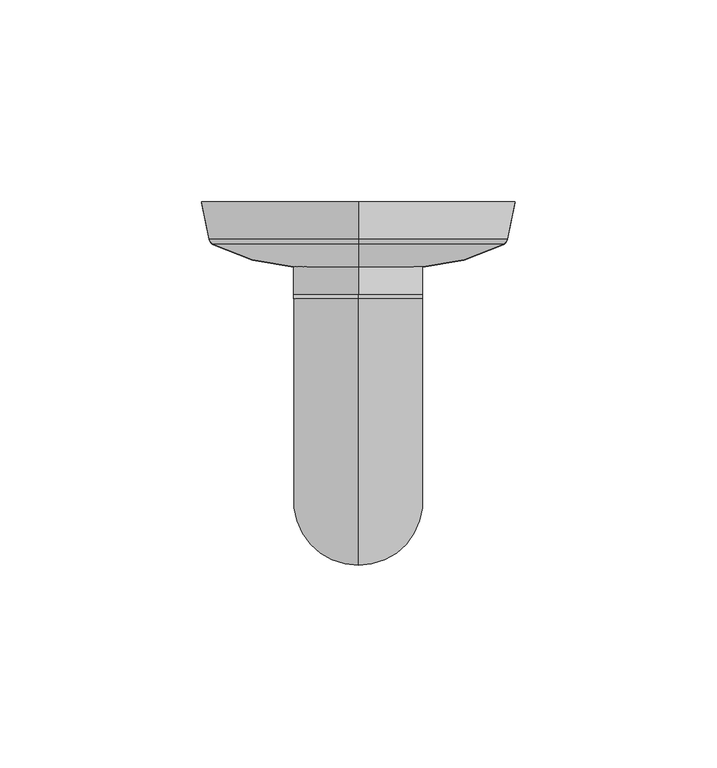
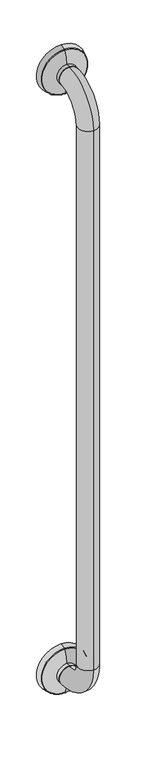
"""IFC4 building model written with IfcOpenShell, lengths in millimetres: proxy geometry, Grab Rail_Metlam_Straight_Vertical : 1032long x 90d x 32w (ML334_1SS)."""

from ifc_helpers import new_model, si_unit, point, frame, origin, place, context, project, spatial, polyline, circle_curve, ellipse_curve, trimmed, source, transform, mapped, element, save
from ifc_brep_helpers import plane_surface, cylinder_surface, revolved_surface, advanced_brep


def specialty_equipment_685f5880(model_context):
    return source(origin(), model_context, "Body", "AdvancedBrep", [
        advanced_brep(
        [(0.0, -90.0, 834.0), (0.0, -24.0, 768.0), (0.0, -24.0, 800.0), (0.0, -58.0, 834.0), (0.0, -58.0, 1734.0), (0.0, -90.0, 1734.0), (0.0, -24.0, 1768.0), (0.0, -24.0, 1800.0), (0.0, -23.0, 768.0), (0.0, -23.0, 800.0), (0.0, -23.0, 1768.0), (0.0, -23.0, 1800.0), (0.0, 0.0, 1784.0), (0.0, 0.0, 1745.0), (0.0, 0.0, 1823.0), (0.0, -9.0646354, 1746.8129271), (0.0, -9.0646354, 1821.1870729), (0.0, -10.4521085, 1820.1384075), (0.0, -10.4521085, 1747.8615925), (0.0, -16.0065539, 1768.0), (0.0, -16.0065539, 1800.0), (0.0, -9.0646354, 746.8129271), (0.0, -9.0646354, 821.1870729), (0.0, 0.0, 823.0), (0.0, 0.0, 745.0), (0.0, -16.0065539, 768.0), (0.0, -16.0065539, 800.0), (0.0, -10.4521085, 820.1384075), (0.0, -10.4521085, 747.8615925), (0.0, 0.0, 784.0)],
        [
            (0, 1, circle_curve(frame((0.0, -24.0, 834.0), z_axis=(1.0, 0.0, 0.0), x_axis=(0.0, 0.0, -1.0)), 66.0)),
            (1, 2, circle_curve(frame((0.0, -24.0, 784.0), z_axis=(0.0, -1.0, 0.0), x_axis=(0.0, 0.0, -1.0)), 16.0)),
            (2, 3, circle_curve(frame((0.0, -24.0, 834.0), z_axis=(-1.0, 0.0, 0.0), x_axis=(0.0, 0.0, -1.0)), 34.0)),
            (3, 0, circle_curve(frame((0.0, -74.0, 834.0), z_axis=(0.0, 0.0, -1.0), x_axis=(0.0, -1.0, 0.0)), 16.0)),
            (0, 3, circle_curve(frame((0.0, -74.0, 834.0), z_axis=(0.0, 0.0, -1.0), x_axis=(0.0, -1.0, 0.0)), 16.0)),
            (2, 1, circle_curve(frame((0.0, -24.0, 784.0), z_axis=(0.0, -1.0, 0.0), x_axis=(0.0, 0.0, -1.0)), 16.0)),
            (3, 4),
            (4, 5, circle_curve(frame((0.0, -74.0, 1734.0), z_axis=(0.0, 0.0, -1.0), x_axis=(0.0, -1.0, 0.0)), 16.0)),
            (5, 0),
            (5, 4, circle_curve(frame((0.0, -74.0, 1734.0), z_axis=(0.0, 0.0, -1.0), x_axis=(0.0, -1.0, 0.0)), 16.0)),
            (4, 6, circle_curve(frame((0.0, -24.0, 1734.0), z_axis=(-1.0, 0.0, 0.0), x_axis=(0.0, -1.0, 0.0)), 34.0)),
            (6, 7, circle_curve(frame((0.0, -24.0, 1784.0), z_axis=(0.0, -1.0, 0.0), x_axis=(0.0, 0.0, 1.0)), 16.0)),
            (7, 5, circle_curve(frame((0.0, -24.0, 1734.0), z_axis=(1.0, 0.0, 0.0), x_axis=(0.0, -1.0, 0.0)), 66.0)),
            (7, 6, circle_curve(frame((0.0, -24.0, 1784.0), z_axis=(0.0, -1.0, 0.0), x_axis=(0.0, 0.0, 1.0)), 16.0)),
            (1, 8),
            (8, 9, circle_curve(frame((0.0, -23.0, 784.0), z_axis=(0.0, -1.0, 0.0), x_axis=(0.0, 0.0, -1.0)), 16.0)),
            (9, 2),
            (9, 8, circle_curve(frame((0.0, -23.0, 784.0), z_axis=(0.0, -1.0, 0.0), x_axis=(0.0, 0.0, -1.0)), 16.0)),
            (6, 10),
            (10, 11, circle_curve(frame((0.0, -23.0, 1784.0), z_axis=(0.0, -1.0, 0.0), x_axis=(0.0, 0.0, 1.0)), 16.0)),
            (11, 7),
            (11, 10, circle_curve(frame((0.0, -23.0, 1784.0), z_axis=(0.0, -1.0, 0.0), x_axis=(0.0, 0.0, 1.0)), 16.0)),
            (12, 13),
            (13, 14, circle_curve(frame((0.0, 0.0, 1784.0), z_axis=(0.0, 1.0, 0.0), x_axis=(0.0, 0.0, -1.0)), 39.0)),
            (14, 12),
            (14, 13, circle_curve(frame((0.0, 0.0, 1784.0), z_axis=(0.0, 1.0, 0.0), x_axis=(0.0, 0.0, -1.0)), 39.0)),
            (13, 15),
            (15, 16, circle_curve(frame((0.0, -9.0646354, 1784.0), z_axis=(0.0, 1.0, 0.0), x_axis=(0.0, 0.0, -1.0)), 37.1870729)),
            (16, 14),
            (16, 15, circle_curve(frame((0.0, -9.0646354, 1784.0), z_axis=(0.0, 1.0, 0.0), x_axis=(0.0, 0.0, -1.0)), 37.1870729)),
            (17, 18, circle_curve(frame((0.0, -10.4521085, 1784.0), z_axis=(0.0, -1.0, 0.0), x_axis=(0.0, 0.0, -1.0)), 36.1384075)),
            (18, 19, circle_curve(frame((0.0, 35.2834961, 1771.3112908), z_axis=(-1.0, 0.0, 0.0), x_axis=(0.0, 1.0, 0.0)), 51.3968275)),
            (19, 20, circle_curve(frame((0.0, -16.0065539, 1784.0), z_axis=(0.0, 1.0, 0.0), x_axis=(0.0, 0.0, -1.0)), 16.0)),
            (20, 17, circle_curve(frame((0.0, 35.2834961, 1796.6887092), z_axis=(-1.0, 0.0, 0.0), x_axis=(0.0, 1.0, 0.0)), 51.3968275)),
            (18, 17, circle_curve(frame((0.0, -10.4521085, 1784.0), z_axis=(0.0, -1.0, 0.0), x_axis=(0.0, 0.0, -1.0)), 36.1384075)),
            (20, 19, circle_curve(frame((0.0, -16.0065539, 1784.0), z_axis=(0.0, 1.0, 0.0), x_axis=(0.0, 0.0, -1.0)), 16.0)),
            (19, 10),
            (11, 20),
            (15, 18, circle_curve(frame((0.0, -8.6724031, 1748.7740884), z_axis=(-1.0, 0.0, 0.0), x_axis=(0.0, 1.0, 0.0)), 2.0)),
            (17, 16, circle_curve(frame((0.0, -8.6724031, 1819.2259116), z_axis=(-1.0, 0.0, 0.0), x_axis=(0.0, 1.0, 0.0)), 2.0)),
            (21, 22, circle_curve(frame((0.0, -9.0646354, 784.0), z_axis=(0.0, 1.0, 0.0), x_axis=(0.0, 0.0, 1.0)), 37.1870729)),
            (22, 23),
            (23, 24, circle_curve(frame((0.0, 0.0, 784.0), z_axis=(0.0, -1.0, 0.0), x_axis=(0.0, 0.0, 1.0)), 39.0)),
            (24, 21),
            (22, 21, circle_curve(frame((0.0, -9.0646354, 784.0), z_axis=(0.0, 1.0, 0.0), x_axis=(0.0, 0.0, 1.0)), 37.1870729)),
            (24, 23, circle_curve(frame((0.0, 0.0, 784.0), z_axis=(0.0, -1.0, 0.0), x_axis=(0.0, 0.0, 1.0)), 39.0)),
            (25, 26, circle_curve(frame((0.0, -16.0065539, 784.0), z_axis=(0.0, 1.0, 0.0), x_axis=(0.0, 0.0, 1.0)), 16.0)),
            (26, 27, circle_curve(frame((0.0, 35.2834961, 796.6887092), z_axis=(-1.0, 0.0, 0.0), x_axis=(0.0, 1.0, 0.0)), 51.3968275)),
            (27, 28, circle_curve(frame((0.0, -10.4521085, 784.0), z_axis=(0.0, -1.0, 0.0), x_axis=(0.0, 0.0, 1.0)), 36.1384075)),
            (28, 25, circle_curve(frame((0.0, 35.2834961, 771.3112908), z_axis=(-1.0, 0.0, 0.0), x_axis=(0.0, 1.0, 0.0)), 51.3968275)),
            (26, 25, circle_curve(frame((0.0, -16.0065539, 784.0), z_axis=(0.0, 1.0, 0.0), x_axis=(0.0, 0.0, 1.0)), 16.0)),
            (28, 27, circle_curve(frame((0.0, -10.4521085, 784.0), z_axis=(0.0, -1.0, 0.0), x_axis=(0.0, 0.0, 1.0)), 36.1384075)),
            (25, 8),
            (9, 26),
            (23, 29),
            (29, 24),
            (21, 28, circle_curve(frame((0.0, -8.6724031, 748.7740884), z_axis=(-1.0, 0.0, 0.0), x_axis=(0.0, 1.0, 0.0)), 2.0)),
            (27, 22, circle_curve(frame((0.0, -8.6724031, 819.2259116), z_axis=(-1.0, 0.0, 0.0), x_axis=(0.0, 1.0, 0.0)), 2.0)),
        ],
        [
            revolved_surface(trimmed(ellipse_curve(frame((0.0, -24.0, 784.0), z_axis=(0.0, 1.0, 0.0), x_axis=(0.0, 0.0, -1.0)), 16.0, 16.0), [point((0.0, -24.0, 800.0))], [point((0.0, -24.0, 768.0))], True, "CARTESIAN"), (0.0, -24.0, 834.0), (-1.0, 0.0, 0.0)),
            revolved_surface(trimmed(ellipse_curve(frame((0.0, -24.0, 784.0), z_axis=(0.0, 1.0, 0.0), x_axis=(0.0, 0.0, -1.0)), 16.0, 16.0), [point((0.0, -24.0, 768.0))], [point((0.0, -24.0, 800.0))], True, "CARTESIAN"), (0.0, -24.0, 834.0), (-1.0, 0.0, 0.0)),
            cylinder_surface(frame((0.0, -74.0, 834.0), z_axis=(0.0, 0.0, -1.0), x_axis=(0.0, -1.0, 0.0)), 16.0),
            revolved_surface(trimmed(ellipse_curve(frame((0.0, -74.0, 1734.0), z_axis=(0.0, 0.0, -1.0), x_axis=(0.0, -1.0, 0.0)), 16.0, 16.0), [point((0.0, -58.0, 1734.0))], [point((0.0, -90.0, 1734.0))], True, "CARTESIAN"), (0.0, -24.0, 1734.0), (-1.0, 0.0, 0.0)),
            revolved_surface(trimmed(ellipse_curve(frame((0.0, -74.0, 1734.0), z_axis=(0.0, 0.0, -1.0), x_axis=(0.0, -1.0, 0.0)), 16.0, 16.0), [point((0.0, -90.0, 1734.0))], [point((0.0, -58.0, 1734.0))], True, "CARTESIAN"), (0.0, -24.0, 1734.0), (-1.0, 0.0, 0.0)),
            cylinder_surface(frame((0.0, -23.0, 784.0), z_axis=(0.0, 1.0, 0.0), x_axis=(0.0, 0.0, -1.0)), 16.0),
            cylinder_surface(frame((0.0, -24.0, 1784.0), z_axis=(0.0, -1.0, 0.0), x_axis=(0.0, 0.0, 1.0)), 16.0),
            plane_surface(frame((0.0, 0.0, 1784.0), z_axis=(0.0, 1.0, 0.0), x_axis=(0.0, 0.0, -1.0))),
            revolved_surface(polyline([(0.0, -9.0646354, 1746.8129271), (0.0, 0.0, 1745.0)]), (0.0, -10.0, 1784.0), (0.0, 1.0, 0.0)),
            revolved_surface(trimmed(ellipse_curve(frame((0.0, 35.2834961, 1771.3112908), z_axis=(1.0, 0.0, 0.0), x_axis=(0.0, 1.0, 0.0)), 51.3968275, 51.3968275), [point((0.0, -16.0065539, 1768.0))], [point((0.0, -10.4521085, 1747.8615925))], True, "CARTESIAN"), (0.0, -10.0, 1784.0), (0.0, 1.0, 0.0)),
            cylinder_surface(frame((0.0, -10.0, 1784.0), z_axis=(0.0, 1.0, 0.0), x_axis=(0.0, 0.0, -1.0)), 16.0),
            revolved_surface(trimmed(ellipse_curve(frame((0.0, -8.6724031, 1748.7740884), z_axis=(1.0, 0.0, 0.0), x_axis=(0.0, 1.0, 0.0)), 2.0, 2.0), [point((0.0, -10.4521085, 1747.8615925))], [point((0.0, -9.0646354, 1746.8129271))], True, "CARTESIAN"), (0.0, -10.0, 1784.0), (0.0, 1.0, 0.0)),
            revolved_surface(polyline([(0.0, 0.0, 823.0), (0.0, -9.0646354, 821.1870729)]), (0.0, -10.0, 784.0), (0.0, -1.0, 0.0)),
            revolved_surface(trimmed(ellipse_curve(frame((0.0, 35.2834961, 796.6887092), z_axis=(1.0, 0.0, 0.0), x_axis=(0.0, 1.0, 0.0)), 51.3968275, 51.3968275), [point((0.0, -10.4521085, 820.1384075))], [point((0.0, -16.0065539, 800.0))], True, "CARTESIAN"), (0.0, -10.0, 784.0), (0.0, -1.0, 0.0)),
            cylinder_surface(frame((0.0, -10.0, 784.0), z_axis=(0.0, -1.0, 0.0), x_axis=(0.0, 0.0, 1.0)), 16.0),
            plane_surface(frame((0.0, 0.0, 784.0), z_axis=(0.0, 1.0, 0.0), x_axis=(0.0, 0.0, 1.0))),
            revolved_surface(trimmed(ellipse_curve(frame((0.0, -8.6724031, 819.2259116), z_axis=(1.0, 0.0, 0.0), x_axis=(0.0, 1.0, 0.0)), 2.0, 2.0), [point((0.0, -9.0646354, 821.1870729))], [point((0.0, -10.4521085, 820.1384075))], True, "CARTESIAN"), (0.0, -10.0, 784.0), (0.0, -1.0, 0.0)),
        ],
        [
            (0, [[1, 2, 3, 4]]),
            (1, [[-1, 5, -3, 6]]),
            (2, [[-4, 7, 8, 9]]),
            (2, [[-5, -9, 10, -7]]),
            (3, [[-8, 11, 12, 13]]),
            (4, [[-10, -13, 14, -11]]),
            (5, [[-2, 15, 16, 17]]),
            (5, [[-6, -17, 18, -15]]),
            (6, [[-12, 19, 20, 21]]),
            (6, [[-14, -21, 22, -19]]),
            (7, [[23, 24, 25]]),
            (7, [[-23, -25, 26]]),
            (8, [[-24, 27, 28, 29]]),
            (8, [[-26, -29, 30, -27]]),
            (9, [[31, 32, 33, 34]]),
            (9, [[-32, 35, -34, 36]]),
            (10, [[-33, 37, -22, 38]]),
            (10, [[-36, -38, -20, -37]]),
            (11, [[-28, 39, -31, 40]]),
            (11, [[-30, -40, -35, -39]]),
            (12, [[41, 42, 43, 44]]),
            (12, [[-42, 45, -44, 46]]),
            (13, [[47, 48, 49, 50]]),
            (13, [[-48, 51, -50, 52]]),
            (14, [[-47, 53, -18, 54]]),
            (14, [[-51, -54, -16, -53]]),
            (15, [[-43, 55, 56]]),
            (15, [[-46, -56, -55]]),
            (16, [[-41, 57, -49, 58]]),
            (16, [[-45, -58, -52, -57]]),
        ],
    ),
    ])


if __name__ == "__main__":
    model = new_model("IFC4")
    model_context = context("Model", 3, world=origin())
    ifc_project = project(units=[si_unit("LENGTHUNIT", "METRE", prefix="MILLI")], contexts=[model_context])
    site = spatial("IfcSite", under=ifc_project)
    building = spatial("IfcBuilding", under=site)
    placement = place(None, origin())
    specialty_equipment_shape = specialty_equipment_685f5880(model_context)
    element("IfcBuildingElementProxy", 1, Name="Grab Rail_Metlam_Straight_Vertical : 1032long x 90d x 32w (ML334_1SS)", ObjectType="Grab Rail_Metlam_Straight_Vertical : 1032long x 90d x 32w (ML334_1SS)", at=placement, inside=building, context=model_context, shape_type="MappedRepresentation", body=[
        mapped(specialty_equipment_shape, transform((0.0, 0.0, 0.0), x_axis=(1.0, 0.0, 0.0), y_axis=(0.0, 1.0, 0.0), z_axis=(0.0, 0.0, 1.0))),
    ])
    save(model, "model.ifc")
